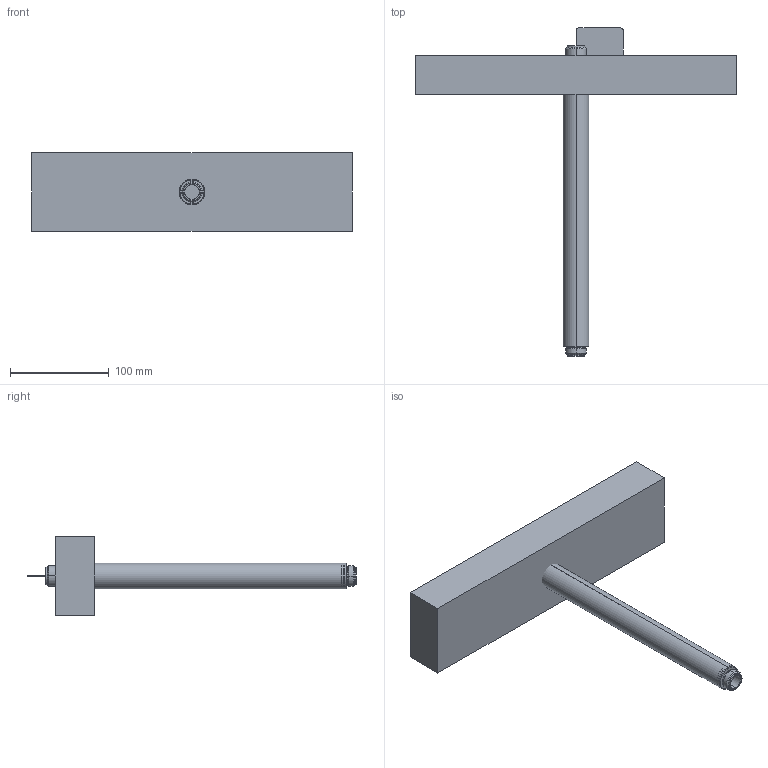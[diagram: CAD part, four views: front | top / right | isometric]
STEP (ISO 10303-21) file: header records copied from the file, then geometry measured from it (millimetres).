
FILE_DESCRIPTION((''),'2;1');
FILE_NAME('76608--00_ASM','2026-10-14T13:42:00',('simi1'),(''),'CREO PARAMETRIC BY PTC INC, 2022244','CREO PARAMETRIC BY PTC INC, 2022244','');
FILE_SCHEMA(('CONFIG_CONTROL_DESIGN'));
Length unit declared in the file: millimetre
Products named in the file (11): 4424200; 4681600; 4424300; 46817--_ASM; 46627--; 4443300; 4499900; 4907500; 4921800; 76608--00_EMB_ASM; 76608--00_ASM
Assembly tree (10 placements, depth 3):
  76608--00_ASM
    46817--_ASM
      4424200
      4681600
      4424300
    46627--
    4443300
    76608--00_EMB_ASM
      4499900
      4907500
      4921800
Bounding box: 325 x 333 x 80 mm (x, y, z)
Volume: 39403.1 mm3; surface area: 151023.3 mm2
Topology: 6 solids, 9 shells, 627 faces, 1644 edges, 1072 vertices
Faces by surface type: plane 499, cone 50, cylinder 48, torus 30
Entity records: 19384 total; most frequent: CARTESIAN_POINT 3456, ORIENTED_EDGE 3276, DIRECTION 3166, EDGE_CURVE 1644, VECTOR 1430, LINE 1430, VERTEX_POINT 1072, AXIS2_PLACEMENT_3D 868
